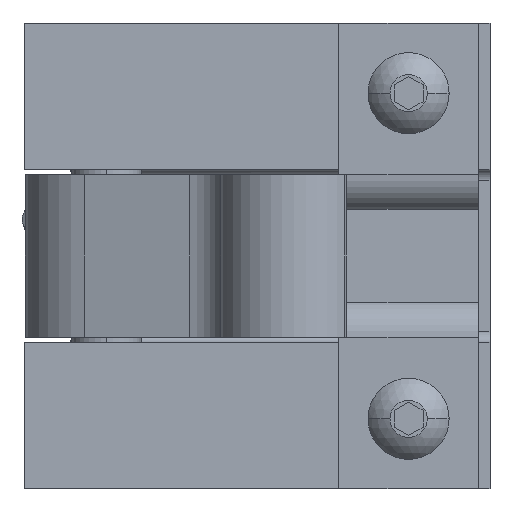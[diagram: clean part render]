
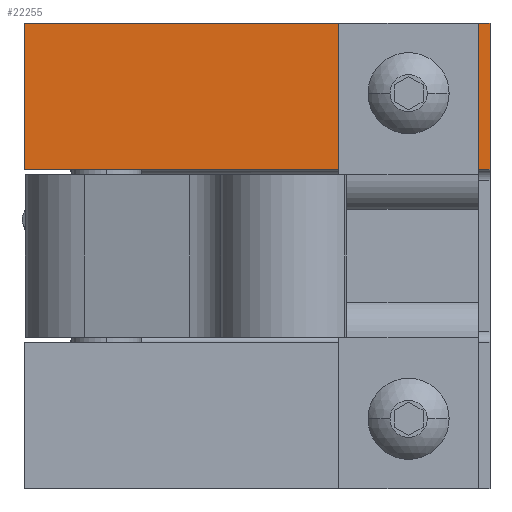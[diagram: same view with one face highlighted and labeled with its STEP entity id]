
A CAD part, left-side view. The second image highlights one B-rep face of the part: STEP entity #22255.
In plain terms, the highlighted planar face has unit normal (-1, 0, 0).
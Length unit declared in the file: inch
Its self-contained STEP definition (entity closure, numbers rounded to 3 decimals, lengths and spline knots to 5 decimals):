
#10322 = CARTESIAN_POINT ( 'NONE',  ( -1.81648, 1.31961, 1.23779 ) ) ;
#10323 = DIRECTION ( 'NONE',  ( 0., 0., 1. ) ) ;
#10324 = VECTOR ( 'NONE', #10323, 39.37008 ) ;
#10325 = CARTESIAN_POINT ( 'NONE',  ( -1.81648, 1.31961, -1.26221 ) ) ;
#10326 = LINE ( 'NONE', #10325, #10324 ) ;
#10343 = CARTESIAN_POINT ( 'NONE',  ( -1.81648, 1.31961, 0.45279 ) ) ;
#17723 = CARTESIAN_POINT ( 'NONE',  ( -1.81648, -1.18039, 0.45279 ) ) ;
#17724 = DIRECTION ( 'NONE',  ( 0., 1., 0. ) ) ;
#17725 = VECTOR ( 'NONE', #17724, 39.37008 ) ;
#17726 = CARTESIAN_POINT ( 'NONE',  ( -1.81648, -1.18039, 0.45279 ) ) ;
#17727 = LINE ( 'NONE', #17726, #17725 ) ;
#17728 = DIRECTION ( 'NONE',  ( 0., 0., 1. ) ) ;
#17729 = DIRECTION ( 'NONE',  ( -1., 0., 0. ) ) ;
#17730 = CARTESIAN_POINT ( 'NONE',  ( -1.81648, -0.74289, 0.86279 ) ) ;
#17731 = AXIS2_PLACEMENT_3D ( 'NONE', #17730, #17729, #17728 ) ;
#17732 = CIRCLE ( 'NONE', #17731, 0.125 ) ;
#17826 = DIRECTION ( 'NONE',  ( 0., 0., 1. ) ) ;
#17827 = DIRECTION ( 'NONE',  ( -1., 0., 0. ) ) ;
#17828 = CARTESIAN_POINT ( 'NONE',  ( -1.81648, -1.18039, -1.26221 ) ) ;
#17829 = AXIS2_PLACEMENT_3D ( 'NONE', #17828, #17827, #17826 ) ;
#17830 = PLANE ( 'NONE',  #17829 ) ;
#17848 = FACE_OUTER_BOUND ( 'NONE', #22328, .T. ) ;
#17853 = FACE_BOUND ( 'NONE', #22256, .T. ) ;
#17933 = CARTESIAN_POINT ( 'NONE',  ( -1.81648, -0.74289, 0.73779 ) ) ;
#17934 = CARTESIAN_POINT ( 'NONE',  ( -1.81648, -0.74289, 0.98779 ) ) ;
#17935 = DIRECTION ( 'NONE',  ( 0., 0., 1. ) ) ;
#17936 = DIRECTION ( 'NONE',  ( -1., 0., 0. ) ) ;
#17937 = CARTESIAN_POINT ( 'NONE',  ( -1.81648, -0.74289, 0.86279 ) ) ;
#17938 = AXIS2_PLACEMENT_3D ( 'NONE', #17937, #17936, #17935 ) ;
#17939 = CIRCLE ( 'NONE', #17938, 0.125 ) ;
#18070 = DIRECTION ( 'NONE',  ( 0., -1., 0. ) ) ;
#18071 = VECTOR ( 'NONE', #18070, 39.37008 ) ;
#18072 = CARTESIAN_POINT ( 'NONE',  ( -1.81648, -1.18039, 1.23779 ) ) ;
#18073 = LINE ( 'NONE', #18072, #18071 ) ;
#18404 = CARTESIAN_POINT ( 'NONE',  ( -1.81648, -1.18039, 1.23779 ) ) ;
#18405 = DIRECTION ( 'NONE',  ( 0., 0., 1. ) ) ;
#18406 = VECTOR ( 'NONE', #18405, 39.37008 ) ;
#18407 = CARTESIAN_POINT ( 'NONE',  ( -1.81648, -1.18039, -1.26221 ) ) ;
#18477 = LINE ( 'NONE', #18407, #18406 ) ;
#21800 = VERTEX_POINT ( 'NONE', #10343 ) ;
#21813 = EDGE_CURVE ( 'NONE', #21800, #21814, #10326, .T. ) ;
#21814 = VERTEX_POINT ( 'NONE', #10322 ) ;
#22208 = ORIENTED_EDGE ( 'NONE', *, *, #21813, .F. ) ;
#22213 = ORIENTED_EDGE ( 'NONE', *, *, #22214, .F. ) ;
#22214 = EDGE_CURVE ( 'NONE', #22313, #22312, #17732, .T. ) ;
#22215 = ORIENTED_EDGE ( 'NONE', *, *, #22216, .F. ) ;
#22216 = EDGE_CURVE ( 'NONE', #22217, #21800, #17727, .T. ) ;
#22217 = VERTEX_POINT ( 'NONE', #17723 ) ;
#22255 = ADVANCED_FACE ( 'NONE', ( #17853, #17848 ), #17830, .T. ) ;
#22256 = EDGE_LOOP ( 'NONE', ( #22310, #22213 ) ) ;
#22297 = ORIENTED_EDGE ( 'NONE', *, *, #22298, .F. ) ;
#22298 = EDGE_CURVE ( 'NONE', #21814, #22405, #18073, .T. ) ;
#22310 = ORIENTED_EDGE ( 'NONE', *, *, #22311, .F. ) ;
#22311 = EDGE_CURVE ( 'NONE', #22312, #22313, #17939, .T. ) ;
#22312 = VERTEX_POINT ( 'NONE', #17934 ) ;
#22313 = VERTEX_POINT ( 'NONE', #17933 ) ;
#22328 = EDGE_LOOP ( 'NONE', ( #22215, #22403, #22297, #22208 ) ) ;
#22403 = ORIENTED_EDGE ( 'NONE', *, *, #22404, .T. ) ;
#22404 = EDGE_CURVE ( 'NONE', #22217, #22405, #18477, .T. ) ;
#22405 = VERTEX_POINT ( 'NONE', #18404 ) ;
